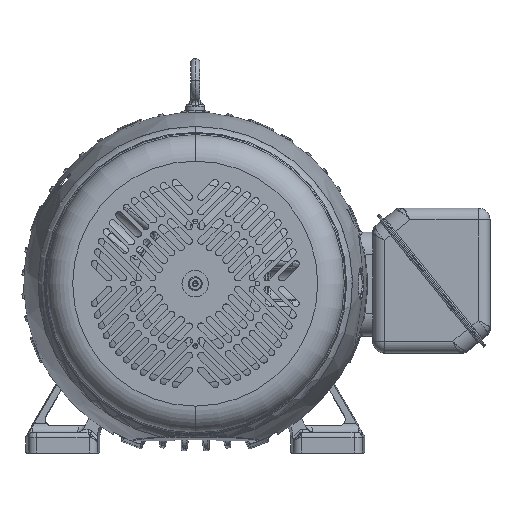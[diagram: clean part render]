
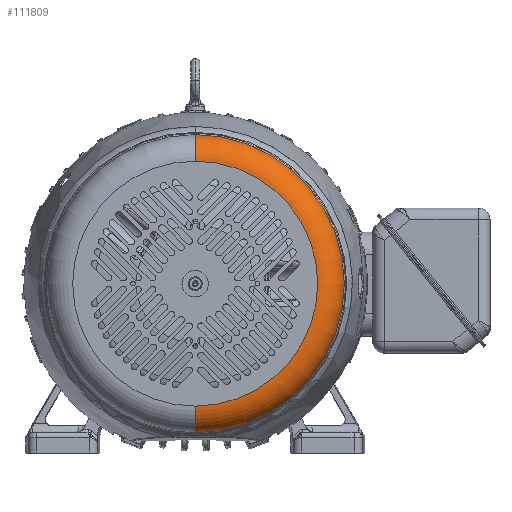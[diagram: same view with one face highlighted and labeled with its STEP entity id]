
A CAD part, top view. The second image highlights one B-rep face of the part: STEP entity #111809.
In plain terms, the highlighted toroidal (fillet/blend) face has major radius 146.875 mm and minor radius 31.745 mm.
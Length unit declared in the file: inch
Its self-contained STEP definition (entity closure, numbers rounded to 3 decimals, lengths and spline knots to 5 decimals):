
#104766=CARTESIAN_POINT('',(0.,0.,7.63));
#104767=DIRECTION('',(0.,0.,1.));
#104768=DIRECTION('',(0.,-1.,0.));
#104769=AXIS2_PLACEMENT_3D('',#104766,#104767,#104768);
#106117=CARTESIAN_POINT('',(0.,5.7825,6.3802));
#106118=DIRECTION('',(-1.,0.,0.));
#106119=DIRECTION('',(0.,0.,1.));
#106120=AXIS2_PLACEMENT_3D('',#106117,#106118,#106119);
#106122=CARTESIAN_POINT('',(0.,-5.7825,6.3802));
#106123=DIRECTION('',(1.,0.,0.));
#106124=DIRECTION('',(0.,0.,1.));
#106125=AXIS2_PLACEMENT_3D('',#106122,#106123,#106124);
#106127=CARTESIAN_POINT('',(0.,0.,6.41292));
#106128=DIRECTION('',(0.,0.,1.));
#106129=DIRECTION('',(0.,-1.,0.));
#106130=AXIS2_PLACEMENT_3D('',#106127,#106128,#106129);
#107669=CARTESIAN_POINT('',(0.,5.7825,7.63));
#107670=CARTESIAN_POINT('',(0.,-5.7825,7.63));
#107671=VERTEX_POINT('',#107669);
#107672=VERTEX_POINT('',#107670);
#107673=CARTESIAN_POINT('',(0.,7.03187,6.41292));
#107674=CARTESIAN_POINT('',(0.,-7.03187,6.41292));
#107675=VERTEX_POINT('',#107673);
#107676=VERTEX_POINT('',#107674);
#111797=CARTESIAN_POINT('',(0.,0.,6.3802));
#111798=DIRECTION('',(0.,0.,-1.));
#111799=DIRECTION('',(-0.021,-1.,0.));
#111800=AXIS2_PLACEMENT_3D('',#111797,#111798,#111799);
#111801=TOROIDAL_SURFACE('',#111800,5.7825,1.2498);
#111802=ORIENTED_EDGE('',*,*,#111028,.T.);
#111803=ORIENTED_EDGE('',*,*,#111792,.T.);
#111805=ORIENTED_EDGE('',*,*,#111804,.F.);
#111806=ORIENTED_EDGE('',*,*,#111788,.F.);
#111807=EDGE_LOOP('',(#111802,#111803,#111805,#111806));
#111808=FACE_OUTER_BOUND('',#111807,.F.);
#111809=ADVANCED_FACE('',(#111808),#111801,.T.);
#104770=CIRCLE('',#104769,5.7825);
#106121=CIRCLE('',#106120,1.2498);
#106126=CIRCLE('',#106125,1.2498);
#106131=CIRCLE('',#106130,7.03187);
#111028=EDGE_CURVE('',#107672,#107671,#104770,.T.);
#111788=EDGE_CURVE('',#107672,#107676,#106126,.T.);
#111792=EDGE_CURVE('',#107671,#107675,#106121,.T.);
#111804=EDGE_CURVE('',#107676,#107675,#106131,.T.);
